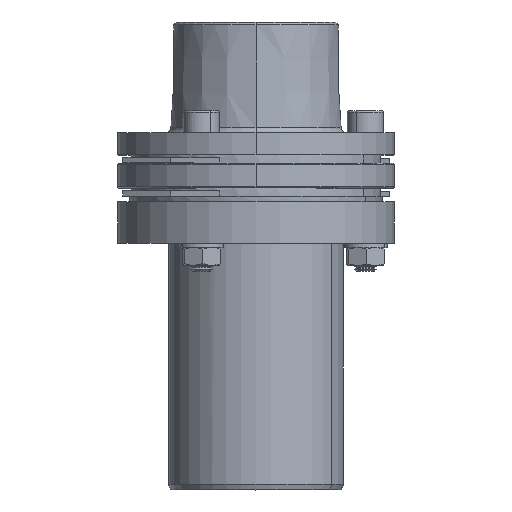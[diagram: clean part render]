
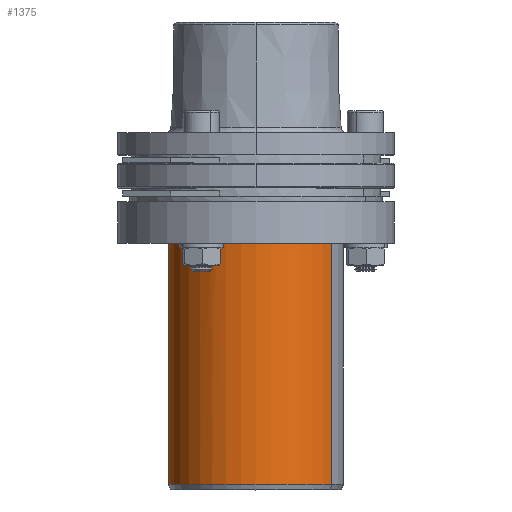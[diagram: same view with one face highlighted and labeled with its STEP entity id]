
A CAD part, top view. The second image highlights one B-rep face of the part: STEP entity #1375.
In plain terms, the highlighted cylindrical face has radius 31.6 mm (diameter 63.2 mm), a partial arc.
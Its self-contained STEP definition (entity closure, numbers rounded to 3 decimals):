
#911 = ORIENTED_EDGE ( 'NONE', *, *, #3640, .T. ) ;
#912 = ORIENTED_EDGE ( 'NONE', *, *, #3641, .T. ) ;
#913 = ORIENTED_EDGE ( 'NONE', *, *, #3644, .T. ) ;
#914 = ORIENTED_EDGE ( 'NONE', *, *, #3643, .T. ) ;
#915 = ORIENTED_EDGE ( 'NONE', *, *, #3642, .T. ) ;
#916 = ORIENTED_EDGE ( 'NONE', *, *, #3648, .T. ) ;
#917 = ORIENTED_EDGE ( 'NONE', *, *, #3661, .F. ) ;
#918 = ORIENTED_EDGE ( 'NONE', *, *, #3647, .F. ) ;
#1375 = ADVANCED_FACE ( 'NONE', ( #7786, #7788 ), #7784, .T. ) ;
#3272 = EDGE_LOOP ( 'NONE', ( #911, #912, #913, #914 ) ) ;
#3273 = EDGE_LOOP ( 'NONE', ( #915, #916, #917, #918 ) ) ;
#3640 = EDGE_CURVE ( 'NONE', #22491, #22492, #6504, .T. ) ;
#3641 = EDGE_CURVE ( 'NONE', #22492, #22493, #6176, .T. ) ;
#3642 = EDGE_CURVE ( 'NONE', #22502, #22268, #6178, .T. ) ;
#3643 = EDGE_CURVE ( 'NONE', #22412, #22491, #6177, .T. ) ;
#3644 = EDGE_CURVE ( 'NONE', #22493, #22412, #6509, .T. ) ;
#3647 = EDGE_CURVE ( 'NONE', #22502, #22490, #6529, .T. ) ;
#3648 = EDGE_CURVE ( 'NONE', #22268, #22476, #6528, .T. ) ;
#3661 = EDGE_CURVE ( 'NONE', #22490, #22476, #6207, .T. ) ;
#6174 = VECTOR ( 'NONE', #6512, 1000. ) ;
#6176 = CIRCLE ( 'NONE', #6179, 31.6 ) ;
#6177 = CIRCLE ( 'NONE', #6183, 31.6 ) ;
#6178 = CIRCLE ( 'NONE', #6181, 31.6 ) ;
#6179 = AXIS2_PLACEMENT_3D ( 'NONE', #6513, #6514, #6515 ) ;
#6180 = VECTOR ( 'NONE', #6533, 1000. ) ;
#6181 = AXIS2_PLACEMENT_3D ( 'NONE', #6517, #6518, #6519 ) ;
#6182 = VECTOR ( 'NONE', #6524, 1000. ) ;
#6183 = AXIS2_PLACEMENT_3D ( 'NONE', #6521, #6522, #6523 ) ;
#6186 = VECTOR ( 'NONE', #6535, 1000. ) ;
#6207 = CIRCLE ( 'NONE', #6211, 31.6 ) ;
#6211 = AXIS2_PLACEMENT_3D ( 'NONE', #6573, #6574, #6575 ) ;
#6504 = LINE ( 'NONE', #6511, #6174 ) ;
#6509 = LINE ( 'NONE', #6516, #6182 ) ;
#6511 = CARTESIAN_POINT ( 'NONE',  ( -9.863, -18.647, 23.909 ) ) ;
#6512 = DIRECTION ( 'NONE',  ( 0., -1., 0. ) ) ;
#6513 = CARTESIAN_POINT ( 'NONE',  ( 4.95, -19.447, -4.003 ) ) ;
#6514 = DIRECTION ( 'NONE',  ( 0., -1., 0. ) ) ;
#6515 = DIRECTION ( 'NONE',  ( 0., 0., 1. ) ) ;
#6516 = CARTESIAN_POINT ( 'NONE',  ( -11.816, -18.647, 22.782 ) ) ;
#6517 = CARTESIAN_POINT ( 'NONE',  ( 4.95, -14.169, -4.003 ) ) ;
#6518 = DIRECTION ( 'NONE',  ( 0., -1., 0. ) ) ;
#6519 = DIRECTION ( 'NONE',  ( 0.866, 0., 0.5 ) ) ;
#6520 = CARTESIAN_POINT ( 'NONE',  ( 32.317, -106.952, 11.797 ) ) ;
#6521 = CARTESIAN_POINT ( 'NONE',  ( 4.95, -17.847, -4.003 ) ) ;
#6522 = DIRECTION ( 'NONE',  ( 0., 1., 0. ) ) ;
#6523 = DIRECTION ( 'NONE',  ( 0., 0., -1. ) ) ;
#6524 = DIRECTION ( 'NONE',  ( 0., 1., 0. ) ) ;
#6528 = LINE ( 'NONE', #6534, #6186 ) ;
#6529 = LINE ( 'NONE', #6520, #6180 ) ;
#6533 = DIRECTION ( 'NONE',  ( 0., -1., 0. ) ) ;
#6534 = CARTESIAN_POINT ( 'NONE',  ( -22.416, -106.952, -19.803 ) ) ;
#6535 = DIRECTION ( 'NONE',  ( 0., -1., 0. ) ) ;
#6573 = CARTESIAN_POINT ( 'NONE',  ( 4.95, -104.952, -4.003 ) ) ;
#6574 = DIRECTION ( 'NONE',  ( 0., -1., 0. ) ) ;
#6575 = DIRECTION ( 'NONE',  ( 0.866, 0., 0.5 ) ) ;
#7779 = DIRECTION ( 'NONE',  ( 0., -1., 0. ) ) ;
#7784 = CYLINDRICAL_SURFACE ( 'NONE', #12949, 31.6 ) ;
#7786 = FACE_BOUND ( 'NONE', #3272, .T. ) ;
#7788 = FACE_OUTER_BOUND ( 'NONE', #3273, .T. ) ;
#7790 = CARTESIAN_POINT ( 'NONE',  ( 4.95, -106.952, -4.003 ) ) ;
#7793 = DIRECTION ( 'NONE',  ( 0.866, 0., 0.5 ) ) ;
#12949 = AXIS2_PLACEMENT_3D ( 'NONE', #7790, #7779, #7793 ) ;
#20496 = CARTESIAN_POINT ( 'NONE',  ( -22.416, -14.169, -19.803 ) ) ;
#20640 = CARTESIAN_POINT ( 'NONE',  ( -11.816, -17.847, 22.782 ) ) ;
#20704 = CARTESIAN_POINT ( 'NONE',  ( -22.416, -104.952, -19.803 ) ) ;
#20718 = CARTESIAN_POINT ( 'NONE',  ( 32.317, -104.952, 11.797 ) ) ;
#20719 = CARTESIAN_POINT ( 'NONE',  ( -9.863, -17.847, 23.909 ) ) ;
#20720 = CARTESIAN_POINT ( 'NONE',  ( -9.863, -19.447, 23.909 ) ) ;
#20721 = CARTESIAN_POINT ( 'NONE',  ( -11.816, -19.447, 22.782 ) ) ;
#20730 = CARTESIAN_POINT ( 'NONE',  ( 32.317, -14.169, 11.797 ) ) ;
#22268 = VERTEX_POINT ( 'NONE', #20496 ) ;
#22412 = VERTEX_POINT ( 'NONE', #20640 ) ;
#22476 = VERTEX_POINT ( 'NONE', #20704 ) ;
#22490 = VERTEX_POINT ( 'NONE', #20718 ) ;
#22491 = VERTEX_POINT ( 'NONE', #20719 ) ;
#22492 = VERTEX_POINT ( 'NONE', #20720 ) ;
#22493 = VERTEX_POINT ( 'NONE', #20721 ) ;
#22502 = VERTEX_POINT ( 'NONE', #20730 ) ;
